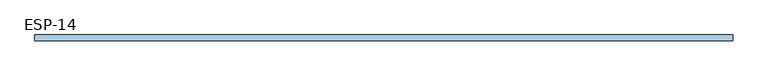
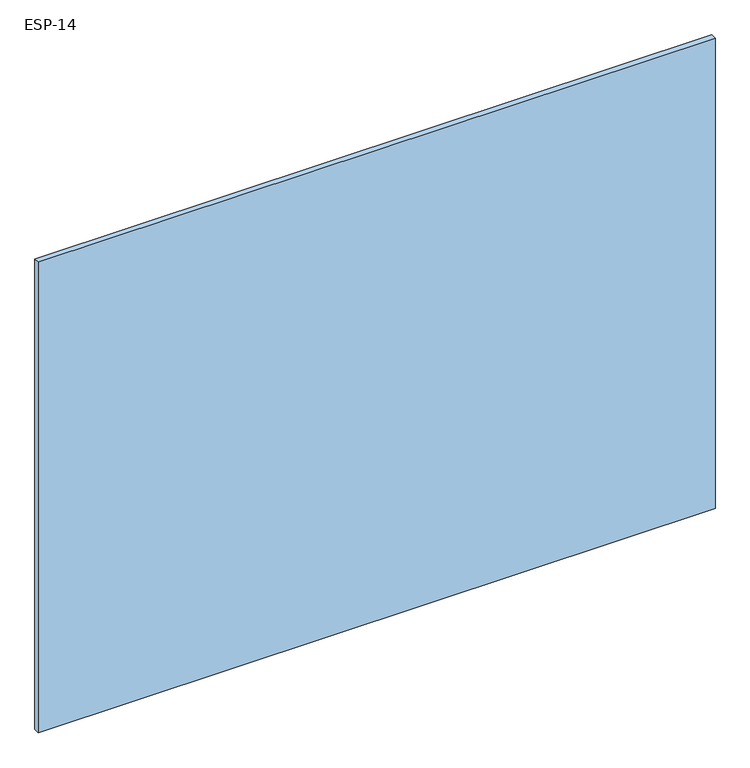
"""IFC4 building model written with IfcOpenShell, lengths in millimetres: window geometry, espejo biselado sin marco : ESP-14."""

from ifc_helpers import new_model, si_unit, origin, origin_with_axes, place, context, project, spatial, polyline, outline, extrude, source, transform, mapped, element, save


def esp_14_c852303f(model_context):
    return source(origin(), model_context, "Body", "SweptSolid", [
        extrude(outline(polyline([(-680.0, -79.0), (680.0, -79.0), (680.0, -90.0), (-680.0, -90.0), (-680.0, -79.0)])), origin_with_axes(), (0.0, 0.0, 1.0), 1000.0),
    ])


if __name__ == "__main__":
    model = new_model("IFC4")
    model_context = context("Model", 3, world=origin())
    ifc_project = project(units=[si_unit("LENGTHUNIT", "METRE", prefix="MILLI")], contexts=[model_context])
    site = spatial("IfcSite", under=ifc_project)
    building = spatial("IfcBuilding", under=site)
    placement = place(None, origin())
    esp_14_shape = esp_14_c852303f(model_context)
    element("IfcWindow", 1, ObjectType="espejo biselado sin marco : ESP-14", at=placement, inside=building, context=model_context, shape_type="MappedRepresentation", body=[
        mapped(esp_14_shape, transform((0.0, 0.0, 0.0), x_axis=(1.0, 0.0, 0.0), y_axis=(0.0, 1.0, 0.0), z_axis=(0.0, 0.0, 1.0))),
    ])
    save(model, "model.ifc")
